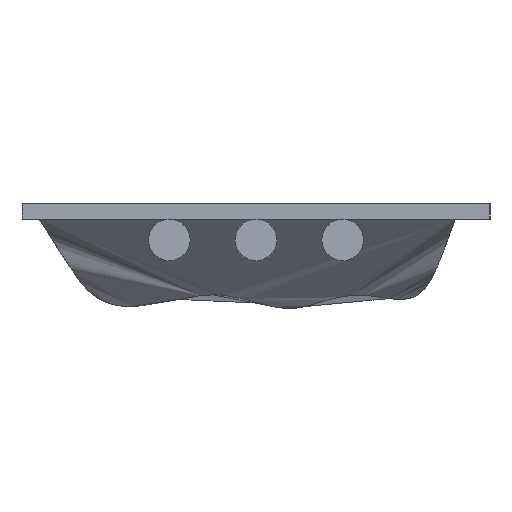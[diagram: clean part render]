
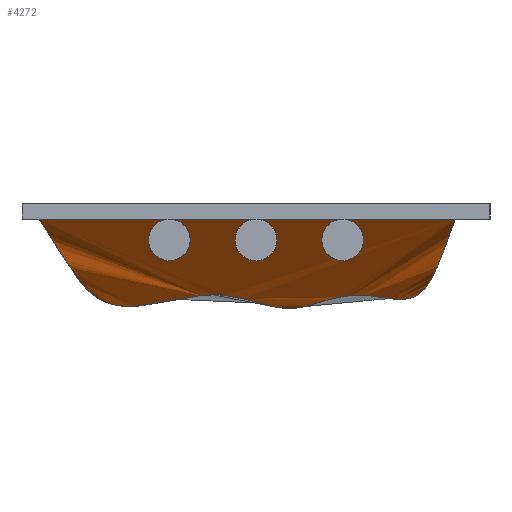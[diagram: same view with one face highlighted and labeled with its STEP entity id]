
A CAD part, left-side view. The second image highlights one B-rep face of the part: STEP entity #4272.
In plain terms, the highlighted free-form (B-spline) face has degree [3, 1] with [13, 2] control points.
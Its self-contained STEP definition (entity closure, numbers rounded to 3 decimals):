
#85=B_SPLINE_SURFACE_WITH_KNOTS('',3,1,((#8700,#8701),(#8702,#8703),(#8704,
#8705),(#8706,#8707),(#8708,#8709),(#8710,#8711),(#8712,#8713),(#8714,#8715),
(#8716,#8717),(#8718,#8719),(#8720,#8721),(#8722,#8723),(#8724,#8725)),
 .SURF_OF_LINEAR_EXTRUSION.,.F.,.F.,.F.,(4,1,1,1,1,1,1,1,1,1,4),(2,2),(0.,
0.225,0.337,0.449,0.562,
0.674,0.73,0.786,0.814,
0.842,0.899),(0.,1.),.UNSPECIFIED.);
#183=B_SPLINE_CURVE_WITH_KNOTS('',3,(#8636,#8637,#8638,#8639,#8640,#8641,
#8642,#8643,#8644,#8645,#8646,#8647,#8648,#8649,#8650,#8651,#8652,#8653,
#8654,#8655,#8656,#8657,#8658,#8659,#8660,#8661,#8662,#8663,#8664,#8665),
 .UNSPECIFIED.,.F.,.F.,(4,1,1,1,1,1,1,1,1,1,1,1,1,1,1,1,1,1,1,1,1,1,1,1,
1,1,1,4),(0.,0.001,0.001,
0.002,0.002,0.003,0.003,
0.004,0.004,0.005,0.005,
0.006,0.006,0.007,0.007,
0.008,0.009,0.01,0.011,
0.011,0.012,0.012,0.013,
0.013,0.014,0.014,0.015,
0.016),.UNSPECIFIED.);
#1337=ORIENTED_EDGE('',*,*,#1917,.T.);
#1338=ORIENTED_EDGE('',*,*,#1914,.F.);
#1914=EDGE_CURVE('',#2308,#2309,#183,.T.);
#1917=EDGE_CURVE('',#2308,#2309,#2789,.T.);
#2308=VERTEX_POINT('',#8635);
#2309=VERTEX_POINT('',#8666);
#2789=LINE('',#8698,#3269);
#3269=VECTOR('',#5450,1000.);
#3555=EDGE_LOOP('',(#1337,#1338));
#3841=FACE_BOUND('',#3555,.T.);
#4272=ADVANCED_FACE('',(#3841),#85,.T.);
#5450=DIRECTION('',(1.,0.,0.));
#8635=CARTESIAN_POINT('',(0.,0.,0.));
#8636=CARTESIAN_POINT('',(0.,0.,0.));
#8637=CARTESIAN_POINT('',(0.071,0.196,-0.26));
#8638=CARTESIAN_POINT('',(0.173,0.461,-0.683));
#8639=CARTESIAN_POINT('',(0.376,1.02,-0.988));
#8640=CARTESIAN_POINT('',(0.547,1.451,-1.199));
#8641=CARTESIAN_POINT('',(0.683,1.716,-1.599));
#8642=CARTESIAN_POINT('',(0.842,2.007,-1.985));
#8643=CARTESIAN_POINT('',(1.241,2.321,-2.149));
#8644=CARTESIAN_POINT('',(1.757,2.325,-2.16));
#8645=CARTESIAN_POINT('',(2.248,2.228,-2.098));
#8646=CARTESIAN_POINT('',(2.747,2.174,-2.065));
#8647=CARTESIAN_POINT('',(3.246,2.222,-2.094));
#8648=CARTESIAN_POINT('',(3.749,2.343,-2.169));
#8649=CARTESIAN_POINT('',(4.225,2.503,-2.277));
#8650=CARTESIAN_POINT('',(4.722,2.601,-2.442));
#8651=CARTESIAN_POINT('',(5.235,2.539,-2.325));
#8652=CARTESIAN_POINT('',(5.874,2.369,-2.176));
#8653=CARTESIAN_POINT('',(6.686,2.126,-2.038));
#8654=CARTESIAN_POINT('',(7.737,2.238,-2.104));
#8655=CARTESIAN_POINT('',(8.572,2.437,-2.227));
#8656=CARTESIAN_POINT('',(9.251,2.528,-2.325));
#8657=CARTESIAN_POINT('',(9.784,2.509,-2.297));
#8658=CARTESIAN_POINT('',(10.271,2.345,-2.158));
#8659=CARTESIAN_POINT('',(10.664,2.011,-1.991));
#8660=CARTESIAN_POINT('',(10.889,1.719,-1.603));
#8661=CARTESIAN_POINT('',(11.081,1.446,-1.195));
#8662=CARTESIAN_POINT('',(11.352,1.023,-0.989));
#8663=CARTESIAN_POINT('',(11.699,0.483,-0.702));
#8664=CARTESIAN_POINT('',(11.876,0.2,-0.265));
#8665=CARTESIAN_POINT('',(12.,0.,0.));
#8666=CARTESIAN_POINT('',(12.,0.,0.));
#8698=CARTESIAN_POINT('',(0.,0.,0.));
#8700=CARTESIAN_POINT('',(12.072,0.,0.));
#8701=CARTESIAN_POINT('',(-0.072,0.,0.));
#8702=CARTESIAN_POINT('',(12.072,0.201,-0.266));
#8703=CARTESIAN_POINT('',(-0.072,0.201,-0.266));
#8704=CARTESIAN_POINT('',(12.072,0.44,-0.647));
#8705=CARTESIAN_POINT('',(-0.072,0.44,-0.647));
#8706=CARTESIAN_POINT('',(12.072,0.951,-0.959));
#8707=CARTESIAN_POINT('',(-0.072,0.951,-0.959));
#8708=CARTESIAN_POINT('',(12.072,1.389,-1.157));
#8709=CARTESIAN_POINT('',(-0.072,1.389,-1.157));
#8710=CARTESIAN_POINT('',(12.072,1.681,-1.519));
#8711=CARTESIAN_POINT('',(-0.072,1.681,-1.519));
#8712=CARTESIAN_POINT('',(12.072,1.893,-1.872));
#8713=CARTESIAN_POINT('',(-0.072,1.893,-1.872));
#8714=CARTESIAN_POINT('',(12.072,2.174,-2.069));
#8715=CARTESIAN_POINT('',(-0.072,2.174,-2.069));
#8716=CARTESIAN_POINT('',(12.072,2.355,-2.173));
#8717=CARTESIAN_POINT('',(-0.072,2.355,-2.173));
#8718=CARTESIAN_POINT('',(12.072,2.483,-2.273));
#8719=CARTESIAN_POINT('',(-0.072,2.483,-2.273));
#8720=CARTESIAN_POINT('',(12.072,2.553,-2.353));
#8721=CARTESIAN_POINT('',(-0.072,2.553,-2.353));
#8722=CARTESIAN_POINT('',(12.072,2.57,-2.384));
#8723=CARTESIAN_POINT('',(-0.072,2.57,-2.384));
#8724=CARTESIAN_POINT('',(12.072,2.584,-2.414));
#8725=CARTESIAN_POINT('',(-0.072,2.584,-2.414));
